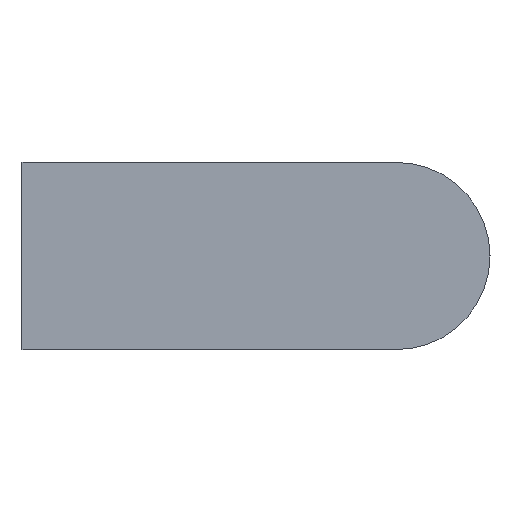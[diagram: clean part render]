
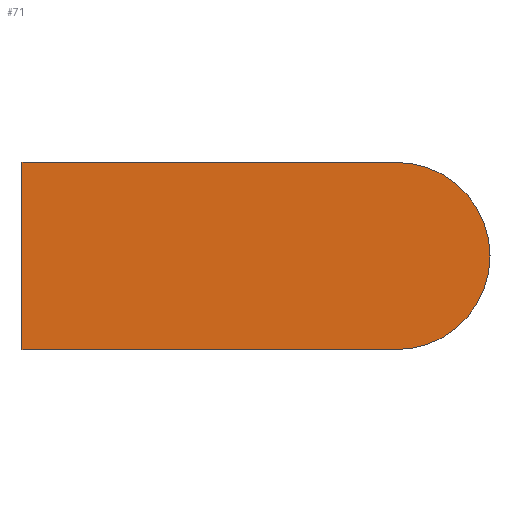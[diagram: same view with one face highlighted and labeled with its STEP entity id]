
A CAD part, left-side view. The second image highlights one B-rep face of the part: STEP entity #71.
In plain terms, the highlighted planar face has unit normal (-1, 0, 0).
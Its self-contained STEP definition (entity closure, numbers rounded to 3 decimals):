
#71 = ADVANCED_FACE( '', ( #148 ), #149, .F. );
#148 = FACE_OUTER_BOUND( '', #225, .T. );
#149 = PLANE( '', #226 );
#225 = EDGE_LOOP( '', ( #355, #356, #357, #358 ) );
#226 = AXIS2_PLACEMENT_3D( '', #359, #360, #361 );
#355 = ORIENTED_EDGE( '', *, *, #455, .F. );
#356 = ORIENTED_EDGE( '', *, *, #413, .F. );
#357 = ORIENTED_EDGE( '', *, *, #458, .F. );
#358 = ORIENTED_EDGE( '', *, *, #459, .F. );
#359 = CARTESIAN_POINT( '', ( -6., -28., 0. ) );
#360 = DIRECTION( '', ( 1., 0., 0. ) );
#361 = DIRECTION( '', ( 0., 0., -1. ) );
#413 = EDGE_CURVE( '', #473, #474, #475, .T. );
#455 = EDGE_CURVE( '', #474, #537, #538, .T. );
#458 = EDGE_CURVE( '', #541, #473, #542, .T. );
#459 = EDGE_CURVE( '', #537, #541, #543, .T. );
#473 = VERTEX_POINT( '', #558 );
#474 = VERTEX_POINT( '', #559 );
#475 = LINE( '', #560, #561 );
#537 = VERTEX_POINT( '', #642 );
#538 = LINE( '', #643, #644 );
#541 = VERTEX_POINT( '', #648 );
#542 = LINE( '', #649, #650 );
#543 = CIRCLE( '', #651, 7. );
#558 = CARTESIAN_POINT( '', ( -6., 0., -7. ) );
#559 = CARTESIAN_POINT( '', ( -6., 0., 7. ) );
#560 = CARTESIAN_POINT( '', ( -6., 0., -7. ) );
#561 = VECTOR( '', #667, 1000. );
#642 = CARTESIAN_POINT( '', ( -6., -28., 7. ) );
#643 = CARTESIAN_POINT( '', ( -6., 0., 7. ) );
#644 = VECTOR( '', #717, 1000. );
#648 = CARTESIAN_POINT( '', ( -6., -28., -7. ) );
#649 = CARTESIAN_POINT( '', ( -6., -28., -7. ) );
#650 = VECTOR( '', #719, 1000. );
#651 = AXIS2_PLACEMENT_3D( '', #720, #721, #722 );
#667 = DIRECTION( '', ( 0., 0., 1. ) );
#717 = DIRECTION( '', ( 0., -1., 0. ) );
#719 = DIRECTION( '', ( 0., 1., 0. ) );
#720 = CARTESIAN_POINT( '', ( -6., -28., 0. ) );
#721 = DIRECTION( '', ( 1., 0., 0. ) );
#722 = DIRECTION( '', ( 0., 0., -1. ) );
